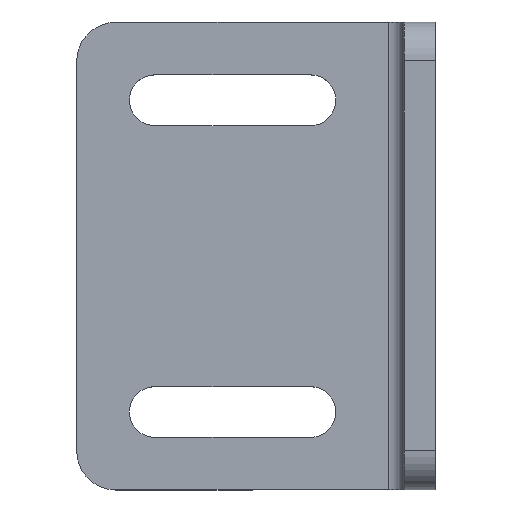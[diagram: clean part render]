
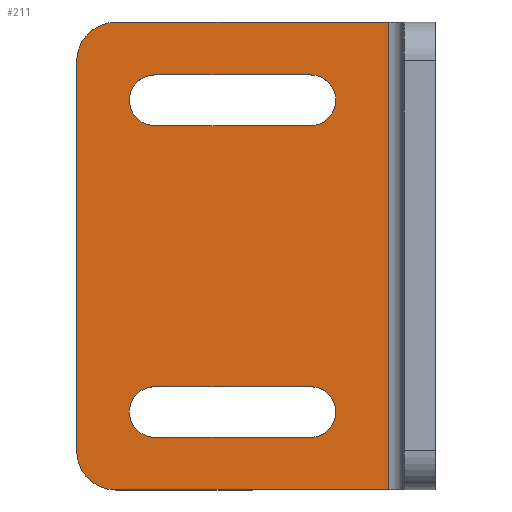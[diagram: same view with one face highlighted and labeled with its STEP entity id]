
A CAD part, top view. The second image highlights one B-rep face of the part: STEP entity #211.
In plain terms, the highlighted planar face has unit normal (0, 0, 1).
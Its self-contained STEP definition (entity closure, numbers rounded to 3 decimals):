
#26 = AXIS2_PLACEMENT_3D ( 'NONE', #31, #755, #492 ) ;
#31 = CARTESIAN_POINT ( 'NONE',  ( -30., -20., 0. ) ) ;
#33 = DIRECTION ( 'NONE',  ( 1., 0., 0. ) ) ;
#38 = ORIENTED_EDGE ( 'NONE', *, *, #55, .T. ) ;
#42 = VERTEX_POINT ( 'NONE', #742 ) ;
#45 = DIRECTION ( 'NONE',  ( 0., -1., 0. ) ) ;
#48 = ORIENTED_EDGE ( 'NONE', *, *, #811, .F. ) ;
#53 = ORIENTED_EDGE ( 'NONE', *, *, #141, .T. ) ;
#55 = EDGE_CURVE ( 'NONE', #334, #349, #809, .T. ) ;
#70 = VERTEX_POINT ( 'NONE', #140 ) ;
#98 = CARTESIAN_POINT ( 'NONE',  ( -30., 20., 0. ) ) ;
#101 = CIRCLE ( 'NONE', #770, 5. ) ;
#105 = VERTEX_POINT ( 'NONE', #709 ) ;
#106 = CIRCLE ( 'NONE', #552, 3.25 ) ;
#107 = DIRECTION ( 'NONE',  ( -1., 0., 0. ) ) ;
#109 = EDGE_CURVE ( 'NONE', #588, #131, #101, .T. ) ;
#113 = CARTESIAN_POINT ( 'NONE',  ( -35., -25., 0. ) ) ;
#124 = EDGE_CURVE ( 'NONE', #166, #42, #406, .T. ) ;
#129 = LINE ( 'NONE', #306, #578 ) ;
#130 = CARTESIAN_POINT ( 'NONE',  ( -35., 25., 0. ) ) ;
#131 = VERTEX_POINT ( 'NONE', #648 ) ;
#135 = VERTEX_POINT ( 'NONE', #296 ) ;
#136 = VERTEX_POINT ( 'NONE', #565 ) ;
#140 = CARTESIAN_POINT ( 'NONE',  ( -10., 16.75, 0. ) ) ;
#141 = EDGE_CURVE ( 'NONE', #513, #105, #159, .T. ) ;
#159 = LINE ( 'NONE', #820, #514 ) ;
#166 = VERTEX_POINT ( 'NONE', #302 ) ;
#172 = VECTOR ( 'NONE', #347, 1000. ) ;
#189 = CARTESIAN_POINT ( 'NONE',  ( -10., 20., 0. ) ) ;
#190 = LINE ( 'NONE', #771, #608 ) ;
#210 = EDGE_LOOP ( 'NONE', ( #449, #252, #320, #844 ) ) ;
#211 = ADVANCED_FACE ( 'NONE', ( #363, #634, #501 ), #707, .T. ) ;
#227 = LINE ( 'NONE', #750, #426 ) ;
#244 = DIRECTION ( 'NONE',  ( 1., 0., 0. ) ) ;
#245 = ORIENTED_EDGE ( 'NONE', *, *, #776, .F. ) ;
#252 = ORIENTED_EDGE ( 'NONE', *, *, #124, .F. ) ;
#256 = EDGE_CURVE ( 'NONE', #166, #667, #719, .T. ) ;
#285 = EDGE_CURVE ( 'NONE', #787, #135, #190, .T. ) ;
#296 = CARTESIAN_POINT ( 'NONE',  ( 0., 30., 0. ) ) ;
#297 = AXIS2_PLACEMENT_3D ( 'NONE', #189, #652, #456 ) ;
#302 = CARTESIAN_POINT ( 'NONE',  ( -30., -16.75, 0. ) ) ;
#303 = EDGE_LOOP ( 'NONE', ( #245, #48, #821, #53 ) ) ;
#306 = CARTESIAN_POINT ( 'NONE',  ( -40., 25., 0. ) ) ;
#319 = DIRECTION ( 'NONE',  ( 0., 0., 1. ) ) ;
#320 = ORIENTED_EDGE ( 'NONE', *, *, #256, .T. ) ;
#322 = CARTESIAN_POINT ( 'NONE',  ( -40., 25., 0. ) ) ;
#333 = CARTESIAN_POINT ( 'NONE',  ( -30., 23.25, 0. ) ) ;
#334 = VERTEX_POINT ( 'NONE', #836 ) ;
#335 = ORIENTED_EDGE ( 'NONE', *, *, #285, .T. ) ;
#337 = CARTESIAN_POINT ( 'NONE',  ( -30., -23.25, 0. ) ) ;
#347 = DIRECTION ( 'NONE',  ( 1., 0., 0. ) ) ;
#349 = VERTEX_POINT ( 'NONE', #322 ) ;
#357 = ORIENTED_EDGE ( 'NONE', *, *, #723, .T. ) ;
#358 = DIRECTION ( 'NONE',  ( 0., 0., 1. ) ) ;
#363 = FACE_BOUND ( 'NONE', #303, .T. ) ;
#373 = DIRECTION ( 'NONE',  ( 1., 0., 0. ) ) ;
#396 = DIRECTION ( 'NONE',  ( 1., 0., 0. ) ) ;
#406 = CIRCLE ( 'NONE', #26, 3.25 ) ;
#407 = CARTESIAN_POINT ( 'NONE',  ( -10., -20., 0. ) ) ;
#409 = AXIS2_PLACEMENT_3D ( 'NONE', #130, #319, #244 ) ;
#426 = VECTOR ( 'NONE', #637, 1000. ) ;
#431 = LINE ( 'NONE', #564, #788 ) ;
#436 = CARTESIAN_POINT ( 'NONE',  ( -40., -25., 0. ) ) ;
#439 = VECTOR ( 'NONE', #396, 1000. ) ;
#448 = AXIS2_PLACEMENT_3D ( 'NONE', #553, #358, #791 ) ;
#449 = ORIENTED_EDGE ( 'NONE', *, *, #486, .F. ) ;
#456 = DIRECTION ( 'NONE',  ( 1., 0., 0. ) ) ;
#468 = CARTESIAN_POINT ( 'NONE',  ( -30., 16.75, 0. ) ) ;
#477 = LINE ( 'NONE', #337, #172 ) ;
#486 = EDGE_CURVE ( 'NONE', #42, #136, #477, .T. ) ;
#491 = DIRECTION ( 'NONE',  ( 0., 0., 1. ) ) ;
#492 = DIRECTION ( 'NONE',  ( 1., 0., 0. ) ) ;
#501 = FACE_OUTER_BOUND ( 'NONE', #734, .T. ) ;
#507 = EDGE_CURVE ( 'NONE', #136, #667, #799, .T. ) ;
#513 = VERTEX_POINT ( 'NONE', #333 ) ;
#514 = VECTOR ( 'NONE', #33, 1000. ) ;
#518 = ORIENTED_EDGE ( 'NONE', *, *, #541, .T. ) ;
#521 = DIRECTION ( 'NONE',  ( 1., 0., 0. ) ) ;
#524 = CARTESIAN_POINT ( 'NONE',  ( 0., -30., 0. ) ) ;
#541 = EDGE_CURVE ( 'NONE', #135, #334, #431, .T. ) ;
#547 = EDGE_CURVE ( 'NONE', #131, #787, #227, .T. ) ;
#549 = EDGE_CURVE ( 'NONE', #513, #828, #106, .T. ) ;
#551 = DIRECTION ( 'NONE',  ( 0., 0., 1. ) ) ;
#552 = AXIS2_PLACEMENT_3D ( 'NONE', #98, #491, #762 ) ;
#553 = CARTESIAN_POINT ( 'NONE',  ( -35., 25., 0. ) ) ;
#564 = CARTESIAN_POINT ( 'NONE',  ( 0., 30., 0. ) ) ;
#565 = CARTESIAN_POINT ( 'NONE',  ( -10., -23.25, 0. ) ) ;
#568 = CARTESIAN_POINT ( 'NONE',  ( -10., -16.75, 0. ) ) ;
#578 = VECTOR ( 'NONE', #45, 1000. ) ;
#582 = ORIENTED_EDGE ( 'NONE', *, *, #547, .T. ) ;
#588 = VERTEX_POINT ( 'NONE', #436 ) ;
#608 = VECTOR ( 'NONE', #713, 1000. ) ;
#613 = CIRCLE ( 'NONE', #297, 3.25 ) ;
#634 = FACE_BOUND ( 'NONE', #210, .T. ) ;
#635 = VECTOR ( 'NONE', #521, 1000. ) ;
#637 = DIRECTION ( 'NONE',  ( 1., 0., 0. ) ) ;
#648 = CARTESIAN_POINT ( 'NONE',  ( -35., -30., 0. ) ) ;
#652 = DIRECTION ( 'NONE',  ( 0., 0., 1. ) ) ;
#667 = VERTEX_POINT ( 'NONE', #568 ) ;
#668 = AXIS2_PLACEMENT_3D ( 'NONE', #407, #551, #678 ) ;
#678 = DIRECTION ( 'NONE',  ( 1., 0., 0. ) ) ;
#707 = PLANE ( 'NONE',  #409 ) ;
#709 = CARTESIAN_POINT ( 'NONE',  ( -10., 23.25, 0. ) ) ;
#713 = DIRECTION ( 'NONE',  ( 0., 1., 0. ) ) ;
#719 = LINE ( 'NONE', #846, #635 ) ;
#723 = EDGE_CURVE ( 'NONE', #349, #588, #129, .T. ) ;
#734 = EDGE_LOOP ( 'NONE', ( #38, #357, #818, #582, #335, #518 ) ) ;
#742 = CARTESIAN_POINT ( 'NONE',  ( -30., -23.25, 0. ) ) ;
#750 = CARTESIAN_POINT ( 'NONE',  ( -35., -30., 0. ) ) ;
#755 = DIRECTION ( 'NONE',  ( 0., 0., 1. ) ) ;
#757 = DIRECTION ( 'NONE',  ( 0., 0., 1. ) ) ;
#762 = DIRECTION ( 'NONE',  ( 1., 0., 0. ) ) ;
#770 = AXIS2_PLACEMENT_3D ( 'NONE', #113, #757, #373 ) ;
#771 = CARTESIAN_POINT ( 'NONE',  ( 0., -30., 0. ) ) ;
#776 = EDGE_CURVE ( 'NONE', #70, #105, #613, .T. ) ;
#787 = VERTEX_POINT ( 'NONE', #524 ) ;
#788 = VECTOR ( 'NONE', #107, 1000. ) ;
#791 = DIRECTION ( 'NONE',  ( 1., 0., 0. ) ) ;
#799 = CIRCLE ( 'NONE', #668, 3.25 ) ;
#809 = CIRCLE ( 'NONE', #448, 5. ) ;
#811 = EDGE_CURVE ( 'NONE', #828, #70, #834, .T. ) ;
#818 = ORIENTED_EDGE ( 'NONE', *, *, #109, .T. ) ;
#820 = CARTESIAN_POINT ( 'NONE',  ( -30., 23.25, 0. ) ) ;
#821 = ORIENTED_EDGE ( 'NONE', *, *, #549, .F. ) ;
#828 = VERTEX_POINT ( 'NONE', #848 ) ;
#834 = LINE ( 'NONE', #468, #439 ) ;
#836 = CARTESIAN_POINT ( 'NONE',  ( -35., 30., 0. ) ) ;
#844 = ORIENTED_EDGE ( 'NONE', *, *, #507, .F. ) ;
#846 = CARTESIAN_POINT ( 'NONE',  ( -30., -16.75, 0. ) ) ;
#848 = CARTESIAN_POINT ( 'NONE',  ( -30., 16.75, 0. ) ) ;
